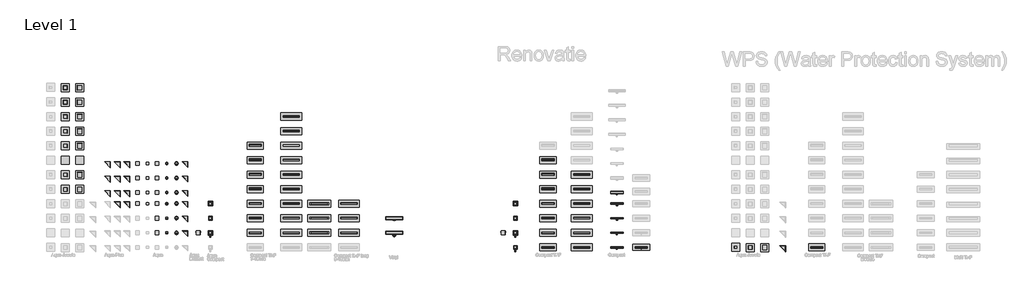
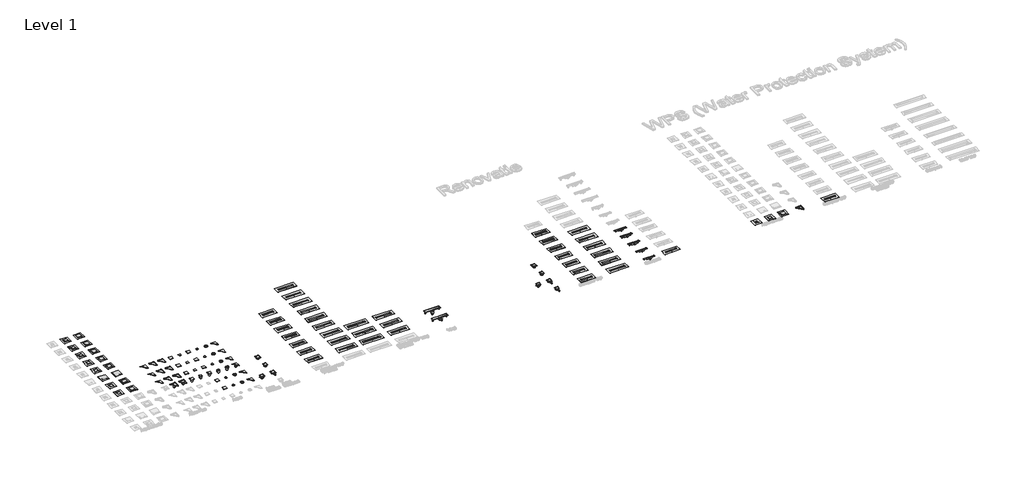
# One storey, part 5 of 23: 125 sanitary terminals, 15 coverings.
"""IFC4 building model written with IfcOpenShell, lengths in millimetres."""

from ifc_helpers import new_model, si_unit, origin, place, context, project, spatial, transform, mapped, element, save
from components import covering_949c216e, covering_52c8488e, sanitary_terminal_1823a797, sanitary_terminal_2f80e022, sanitary_terminal_5b34698b, sanitary_terminal_2ebfcd1c, sanitary_terminal_eb8b4586, sanitary_terminal_f8d560c6, sanitary_terminal_cf954fec, sanitary_terminal_e1eeded3, sanitary_terminal_9a77729b, sanitary_terminal_87b3114c, sanitary_terminal_e6825e24, sanitary_terminal_5c7f7aa6, sanitary_terminal_14ebe62b, sanitary_terminal_cd1ec674, sanitary_terminal_94900406, sanitary_terminal_50c217ad, sanitary_terminal_e52f65bd, sanitary_terminal_b1b542f0, sanitary_terminal_1a364380, sanitary_terminal_49c4bee3, black_glass_15x15_4ec12fde, black_glass_20x20_2d4f7b62, compact_d3044acb, compact_a988ca50, compact_608fc20b, compact_45fd4abb, compact_89d7015a, compact_d6b970c3, compact_b74792c9, compact_6f6b42fc, compact_ff_9ca3e479, compact_flange_e84be961, compact_taf_aa2868d5, compact_taf_09897acd, compact_taf_a320cd3e, compact_taf_2342890d, compact_taf_wall_cdf960c3, compact_taf_wall_d19b2d83, compact_taf_wall_0f2e0b1c, compact_taf_wall_d03a32f8, m2_trap_body_7347115e, tile_15x15_625d1f21, tile_15x15_8973f844, tile_20x20_1db265bf, tile_20x20_2fca3c0a, vinyl_m2_50_b73f0109, vinyl_m2_50_with_m2_vertical_outlet_dc84f167, black_glass_10x10_94a9755f

model = new_model("IFC4")

# Units and contexts
model_context = context("Model", 3, world=origin())
ifc_project = project(units=[si_unit("LENGTHUNIT", "METRE", prefix="MILLI")], contexts=[model_context])

# Site, building, storey
site = spatial("IfcSite", under=ifc_project)
building = spatial("IfcBuilding", under=site)
storey = spatial("IfcBuildingStorey", under=building, Name="Level 1", Elevation=0.0)

# Coverings
placement = place(None, origin())
covering_shape = covering_949c216e(model_context)
element("IfcCovering", 1, ObjectType="Z_DO_NOT_USE_NLRS_PF_52_UN_Extension Set_Easydrain : NLRS_PLF_52_UN_Easy Drain verlengset_Easydrain", at=placement, inside=storey, context=model_context, shape_type="MappedRepresentation", body=[
    mapped(covering_shape, transform((111217.5, 7700.0, 0.0), x_axis=(1.0, 0.0, 0.0), y_axis=(0.0, 1.0, 0.0), z_axis=(0.0, 0.0, 1.0))),
])
element("IfcCovering", 2, ObjectType="Z_DO_NOT_USE_NLRS_PF_52_UN_Extension Set_Easydrain : NLRS_PLF_52_UN_Easy Drain verlengset_Easydrain", at=placement, inside=storey, context=model_context, shape_type="MappedRepresentation", body=[
    mapped(covering_shape, transform((88017.5, 8300.0, 0.0), x_axis=(1.0, 0.0, 0.0), y_axis=(0.0, 1.0, 0.0), z_axis=(0.0, 0.0, 1.0))),
])
element("IfcCovering", 3, ObjectType="Z_DO_NOT_USE_NLRS_PF_52_UN_Extension Set_Easydrain : NLRS_PLF_52_UN_Easy Drain verlengset_Easydrain", at=placement, inside=storey, context=model_context, shape_type="MappedRepresentation", body=[
    mapped(covering_shape, transform((88017.5, 8900.0, 0.0), x_axis=(1.0, 0.0, 0.0), y_axis=(0.0, 1.0, 0.0), z_axis=(0.0, 0.0, 1.0))),
])
element("IfcCovering", 4, ObjectType="Z_DO_NOT_USE_NLRS_PF_52_UN_Extension Set_Easydrain : NLRS_PLF_52_UN_Easy Drain verlengset_Easydrain", at=placement, inside=storey, context=model_context, shape_type="MappedRepresentation", body=[
    mapped(covering_shape, transform((88017.5, 9500.0, 0.0), x_axis=(1.0, 0.0, 0.0), y_axis=(0.0, 1.0, 0.0), z_axis=(0.0, 0.0, 1.0))),
])
element("IfcCovering", 5, ObjectType="Z_DO_NOT_USE_NLRS_PF_52_UN_Extension Set_Easydrain : NLRS_PLF_52_UN_Easy Drain verlengset_Easydrain", at=placement, inside=storey, context=model_context, shape_type="MappedRepresentation", body=[
    mapped(covering_shape, transform((100117.5, 7700.0, 0.0), x_axis=(1.0, 0.0, 0.0), y_axis=(0.0, 1.0, 0.0), z_axis=(0.0, 0.0, 1.0))),
])
element("IfcCovering", 6, ObjectType="Z_DO_NOT_USE_NLRS_PF_52_UN_Extension Set_Easydrain : NLRS_PLF_52_UN_Easy Drain verlengset_Easydrain", at=placement, inside=storey, context=model_context, shape_type="MappedRepresentation", body=[
    mapped(covering_shape, transform((100117.5, 8300.0, 0.0), x_axis=(1.0, 0.0, 0.0), y_axis=(0.0, 1.0, 0.0), z_axis=(0.0, 0.0, 1.0))),
])
element("IfcCovering", 7, ObjectType="Z_DO_NOT_USE_NLRS_PF_52_UN_Extension Set_Easydrain : NLRS_PLF_52_UN_Easy Drain verlengset_Easydrain", at=placement, inside=storey, context=model_context, shape_type="MappedRepresentation", body=[
    mapped(covering_shape, transform((100117.5, 8900.0, 0.0), x_axis=(1.0, 0.0, 0.0), y_axis=(0.0, 1.0, 0.0), z_axis=(0.0, 0.0, 1.0))),
])
element("IfcCovering", 8, ObjectType="Z_DO_NOT_USE_NLRS_PF_52_UN_Extension Set_Easydrain : NLRS_PLF_52_UN_Easy Drain verlengset_Easydrain", at=placement, inside=storey, context=model_context, shape_type="MappedRepresentation", body=[
    mapped(covering_shape, transform((100117.5, 9500.0, 0.0), x_axis=(1.0, 0.0, 0.0), y_axis=(0.0, 1.0, 0.0), z_axis=(0.0, 0.0, 1.0))),
])
covering_2_shape = covering_52c8488e(model_context)
element("IfcCovering", 9, ObjectType="Z_DO_NOT_USE_NLRS_PF_52_UN_Extension Set_Easydrain : NLRS_PLF_52_UN_Easy Drain verlengset_Easydrain", at=placement, inside=storey, context=model_context, shape_type="MappedRepresentation", body=[
    mapped(covering_2_shape, transform((88017.5, 10100.0, 0.0), x_axis=(1.0, 0.0, 0.0), y_axis=(0.0, 1.0, 0.0), z_axis=(0.0, 0.0, 1.0))),
])
element("IfcCovering", 10, ObjectType="Z_DO_NOT_USE_NLRS_PF_52_UN_Extension Set_Easydrain : NLRS_PLF_52_UN_Easy Drain verlengset_Easydrain", at=placement, inside=storey, context=model_context, shape_type="MappedRepresentation", body=[
    mapped(covering_2_shape, transform((88017.5, 10700.0, 0.0), x_axis=(1.0, 0.0, 0.0), y_axis=(0.0, 1.0, 0.0), z_axis=(0.0, 0.0, 1.0))),
])
element("IfcCovering", 11, ObjectType="Z_DO_NOT_USE_NLRS_PF_52_UN_Extension Set_Easydrain : NLRS_PLF_52_UN_Easy Drain verlengset_Easydrain", at=placement, inside=storey, context=model_context, shape_type="MappedRepresentation", body=[
    mapped(covering_2_shape, transform((88017.5, 11300.0, 0.0), x_axis=(1.0, 0.0, 0.0), y_axis=(0.0, 1.0, 0.0), z_axis=(0.0, 0.0, 1.0))),
])
element("IfcCovering", 12, ObjectType="Z_DO_NOT_USE_NLRS_PF_52_UN_Extension Set_Easydrain : NLRS_PLF_52_UN_Easy Drain verlengset_Easydrain", at=placement, inside=storey, context=model_context, shape_type="MappedRepresentation", body=[
    mapped(covering_2_shape, transform((88017.5, 11900.0, 0.0), x_axis=(1.0, 0.0, 0.0), y_axis=(0.0, 1.0, 0.0), z_axis=(0.0, 0.0, 1.0))),
])
element("IfcCovering", 13, ObjectType="Z_DO_NOT_USE_NLRS_PF_52_UN_Extension Set_Easydrain : NLRS_PLF_52_UN_Easy Drain verlengset_Easydrain", at=placement, inside=storey, context=model_context, shape_type="MappedRepresentation", body=[
    mapped(covering_2_shape, transform((100117.5, 10100.0, 0.0), x_axis=(1.0, 0.0, 0.0), y_axis=(0.0, 1.0, 0.0), z_axis=(0.0, 0.0, 1.0))),
])
element("IfcCovering", 14, ObjectType="Z_DO_NOT_USE_NLRS_PF_52_UN_Extension Set_Easydrain : NLRS_PLF_52_UN_Easy Drain verlengset_Easydrain", at=placement, inside=storey, context=model_context, shape_type="MappedRepresentation", body=[
    mapped(covering_2_shape, transform((100117.5, 10700.0, 0.0), x_axis=(1.0, 0.0, 0.0), y_axis=(0.0, 1.0, 0.0), z_axis=(0.0, 0.0, 1.0))),
])
element("IfcCovering", 15, ObjectType="Z_DO_NOT_USE_NLRS_PF_52_UN_Extension Set_Easydrain : NLRS_PLF_52_UN_Easy Drain verlengset_Easydrain", at=placement, inside=storey, context=model_context, shape_type="MappedRepresentation", body=[
    mapped(covering_2_shape, transform((100117.5, 11300.0, 0.0), x_axis=(1.0, 0.0, 0.0), y_axis=(0.0, 1.0, 0.0), z_axis=(0.0, 0.0, 1.0))),
])

# Sanitary terminals
sanitary_terminal_shape = sanitary_terminal_1823a797(model_context)
element("IfcSanitaryTerminal", 16, ObjectType="NLRS_PF_52_UN_Aqua Brilliant_Easydrain : Brilliant onderuitloop 50mm", at=placement, inside=storey, context=model_context, shape_type="MappedRepresentation", body=[
    mapped(sanitary_terminal_shape, transform((85900.0, 8300.0, 0.0), x_axis=(1.0, 0.0, 0.0), y_axis=(0.0, 1.0, 0.0), z_axis=(0.0, 0.0, 1.0))),
])
element("IfcSanitaryTerminal", 17, ObjectType="NLRS_PF_52_UN_Aqua Brilliant_Easydrain : Brilliant onderuitloop 50mm", at=placement, inside=storey, context=model_context, shape_type="MappedRepresentation", body=[
    mapped(sanitary_terminal_shape, transform((98500.0, 8300.0, 0.0), x_axis=(1.0, 0.0, 0.0), y_axis=(0.0, 1.0, 0.0), z_axis=(0.0, 0.0, 1.0))),
])
sanitary_terminal_2_shape = sanitary_terminal_2f80e022(model_context)
element("IfcSanitaryTerminal", 18, ObjectType="NLRS_PF_52_UN_Aqua Delta_in_uitloop_Easydrain : Aqua Delta onderuitloop 50mm, zij-ingang 40mm", at=placement, inside=storey, context=model_context, shape_type="MappedRepresentation", body=[
    mapped(sanitary_terminal_2_shape, transform((85400.0, 10560.0, 0.0), x_axis=(1.0, 0.0, 0.0), y_axis=(0.0, 1.0, 0.0), z_axis=(0.0, 0.0, 1.0))),
])
element("IfcSanitaryTerminal", 19, ObjectType="NLRS_PF_52_UN_Aqua Delta_in_uitloop_Easydrain : Aqua Delta onderuitloop 50mm, zij-ingang 50mm", at=placement, inside=storey, context=model_context, shape_type="MappedRepresentation", body=[
    mapped(sanitary_terminal_2_shape, transform((85400.0, 11160.0, 0.0), x_axis=(1.0, 0.0, 0.0), y_axis=(0.0, 1.0, 0.0), z_axis=(0.0, 0.0, 1.0))),
])
element("IfcSanitaryTerminal", 20, ObjectType="NLRS_PF_52_UN_Aqua Delta_in_uitloop_Easydrain : Aqua Delta zijuitloop hoog 50mm, zij-ingang 40mm", at=placement, inside=storey, context=model_context, shape_type="MappedRepresentation", body=[
    mapped(sanitary_terminal_2_shape, transform((85400.0, 9960.0, 0.0), x_axis=(1.0, 0.0, 0.0), y_axis=(0.0, 1.0, 0.0), z_axis=(0.0, 0.0, 1.0))),
])
sanitary_terminal_3_shape = sanitary_terminal_5b34698b(model_context)
element("IfcSanitaryTerminal", 21, ObjectType="NLRS_PF_52_UN_Aqua Jewels Delta_uitloop_Easydrain : Aqua Jewels Delta horizontal outlet low 40mm", at=placement, inside=storey, context=model_context, shape_type="MappedRepresentation", body=[
    mapped(sanitary_terminal_3_shape, transform((110100.0, 7700.0, 0.0), x_axis=(1.0, 0.0, 0.0), y_axis=(0.0, 1.0, 0.0), z_axis=(0.0, 0.0, 1.0))),
])
sanitary_terminal_4_shape = sanitary_terminal_2ebfcd1c(model_context)
element("IfcSanitaryTerminal", 22, ObjectType="NLRS_PF_52_UN_Aqua Plus Delta_in_uitloop_Easydrain : Aqua Plus Delta onderuitloop 50mm, zij-ingang 40mm", at=placement, inside=storey, context=model_context, shape_type="MappedRepresentation", body=[
    mapped(sanitary_terminal_4_shape, transform((82200.0, 10560.0, 0.0), x_axis=(1.0, 0.0, 0.0), y_axis=(0.0, 1.0, 0.0), z_axis=(0.0, 0.0, 1.0))),
])
element("IfcSanitaryTerminal", 23, ObjectType="NLRS_PF_52_UN_Aqua Plus Delta_in_uitloop_Easydrain : Aqua Plus Delta onderuitloop 50mm, zij-ingang 50mm", at=placement, inside=storey, context=model_context, shape_type="MappedRepresentation", body=[
    mapped(sanitary_terminal_4_shape, transform((82200.0, 11160.0, 0.0), x_axis=(1.0, 0.0, 0.0), y_axis=(0.0, 1.0, 0.0), z_axis=(0.0, 0.0, 1.0))),
])
element("IfcSanitaryTerminal", 24, ObjectType="NLRS_PF_52_UN_Aqua Plus Delta_in_uitloop_Easydrain : Aqua Plus Delta zijuitloop hoog 50mm, zij-ingang 40mm", at=placement, inside=storey, context=model_context, shape_type="MappedRepresentation", body=[
    mapped(sanitary_terminal_4_shape, transform((82200.0, 9960.0, 0.0), x_axis=(1.0, 0.0, 0.0), y_axis=(0.0, 1.0, 0.0), z_axis=(0.0, 0.0, 1.0))),
])
sanitary_terminal_5_shape = sanitary_terminal_eb8b4586(model_context)
element("IfcSanitaryTerminal", 25, ObjectType="NLRS_PF_52_UN_Aqua Plus Quattro_in_uitloop_Easydrain : Aqua Plus Quattro zijuitloop hoog 50mm, zij-ingang 40mm", at=placement, inside=storey, context=model_context, shape_type="MappedRepresentation", body=[
    mapped(sanitary_terminal_5_shape, transform((83400.0, 9960.0, 0.0), x_axis=(1.0, 0.0, 0.0), y_axis=(0.0, 1.0, 0.0), z_axis=(0.0, 0.0, 1.0))),
])
element("IfcSanitaryTerminal", 26, ObjectType="NLRS_PF_52_UN_Aqua Plus Quattro_in_uitloop_Easydrain : Aqua Plus Quattro onderuitloop 50mm, zij-ingang 40mm", at=placement, inside=storey, context=model_context, shape_type="MappedRepresentation", body=[
    mapped(sanitary_terminal_5_shape, transform((83400.0, 10560.0, 0.0), x_axis=(1.0, 0.0, 0.0), y_axis=(0.0, 1.0, 0.0), z_axis=(0.0, 0.0, 1.0))),
])
element("IfcSanitaryTerminal", 27, ObjectType="NLRS_PF_52_UN_Aqua Plus Quattro_in_uitloop_Easydrain : Aqua Plus Quattro onderuitloop 50mm, zij-ingang 50mm", at=placement, inside=storey, context=model_context, shape_type="MappedRepresentation", body=[
    mapped(sanitary_terminal_5_shape, transform((83400.0, 11160.0, 0.0), x_axis=(1.0, 0.0, 0.0), y_axis=(0.0, 1.0, 0.0), z_axis=(0.0, 0.0, 1.0))),
])
sanitary_terminal_6_shape = sanitary_terminal_f8d560c6(model_context)
element("IfcSanitaryTerminal", 28, ObjectType="NLRS_PF_52_UN_Aqua Quattro_in_uitloop_Easydrain : Aqua Quattro onderuitloop 50mm, zij-ingang 40mm", at=placement, inside=storey, context=model_context, shape_type="MappedRepresentation", body=[
    mapped(sanitary_terminal_6_shape, transform((83800.0, 10560.0, 0.0), x_axis=(1.0, 0.0, 0.0), y_axis=(0.0, 1.0, 0.0), z_axis=(0.0, 0.0, 1.0))),
])
element("IfcSanitaryTerminal", 29, ObjectType="NLRS_PF_52_UN_Aqua Quattro_in_uitloop_Easydrain : Aqua Quattro zijuitloop hoog 50mm, zij-ingang 40mm", at=placement, inside=storey, context=model_context, shape_type="MappedRepresentation", body=[
    mapped(sanitary_terminal_6_shape, transform((83800.0, 9960.0, 0.0), x_axis=(1.0, 0.0, 0.0), y_axis=(0.0, 1.0, 0.0), z_axis=(0.0, 0.0, 1.0))),
])
element("IfcSanitaryTerminal", 30, ObjectType="NLRS_PF_52_UN_Aqua Quattro_in_uitloop_Easydrain : Aqua Quattro zijuitloop hoog 50mm, zij-ingang 40mm", at=placement, inside=storey, context=model_context, shape_type="MappedRepresentation", body=[
    mapped(sanitary_terminal_6_shape, transform((83800.0, 11160.0, 0.0), x_axis=(1.0, 0.0, 0.0), y_axis=(0.0, 1.0, 0.0), z_axis=(0.0, 0.0, 1.0))),
])
sanitary_terminal_7_shape = sanitary_terminal_cf954fec(model_context)
element("IfcSanitaryTerminal", 31, ObjectType="NLRS_PF_52_UN_Aqua Round_in_uitloop_Easydrain : Aqua Round onderuitloop 50mm, zij-ingang 40mm", at=placement, inside=storey, context=model_context, shape_type="MappedRepresentation", body=[
    mapped(sanitary_terminal_7_shape, transform((84600.0, 10560.0, 0.0), x_axis=(1.0, 0.0, 0.0), y_axis=(0.0, 1.0, 0.0), z_axis=(0.0, 0.0, 1.0))),
])
element("IfcSanitaryTerminal", 32, ObjectType="NLRS_PF_52_UN_Aqua Round_in_uitloop_Easydrain : Aqua Round onderuitloop 50mm, zij-ingang 50mm", at=placement, inside=storey, context=model_context, shape_type="MappedRepresentation", body=[
    mapped(sanitary_terminal_7_shape, transform((84600.0, 11160.0, 0.0), x_axis=(1.0, 0.0, 0.0), y_axis=(0.0, 1.0, 0.0), z_axis=(0.0, 0.0, 1.0))),
])
element("IfcSanitaryTerminal", 33, ObjectType="NLRS_PF_52_UN_Aqua Round_in_uitloop_Easydrain : Aqua Round zijuitloop hoog 50mm, zij-ingang 40mm", at=placement, inside=storey, context=model_context, shape_type="MappedRepresentation", body=[
    mapped(sanitary_terminal_7_shape, transform((84600.0, 9960.0, 0.0), x_axis=(1.0, 0.0, 0.0), y_axis=(0.0, 1.0, 0.0), z_axis=(0.0, 0.0, 1.0))),
])
sanitary_terminal_8_shape = sanitary_terminal_e1eeded3(model_context)
element("IfcSanitaryTerminal", 34, ObjectType="NLRS_PF_52_UN_Compact TAF Low_Easydrain : Compact TAF Low Zero geborsteld RVS", at=placement, inside=storey, context=model_context, shape_type="MappedRepresentation", body=[
    mapped(sanitary_terminal_8_shape, transform((92030.0, 8900.0, 0.0), x_axis=(1.0, 0.0, 0.0), y_axis=(0.0, 1.0, 0.0), z_axis=(0.0, 0.0, 1.0))),
])
sanitary_terminal_9_shape = sanitary_terminal_9a77729b(model_context)
element("IfcSanitaryTerminal", 35, ObjectType="NLRS_PF_52_UN_Compact TAF Modulo Design_Easydrain : Compact TAF Modulo Design Z4", at=placement, inside=storey, context=model_context, shape_type="MappedRepresentation", body=[
    mapped(sanitary_terminal_9_shape, transform((90750.0, 8300.0, 0.0), x_axis=(1.0, 0.0, 0.0), y_axis=(0.0, 1.0, 0.0), z_axis=(0.0, 0.0, 1.0))),
])
sanitary_terminal_10_shape = sanitary_terminal_87b3114c(model_context)
element("IfcSanitaryTerminal", 36, ObjectType="NLRS_PF_52_UN_Compact TAF Modulo_Easydrain : Compact TAF Modulo Classic", at=placement, inside=storey, context=model_context, shape_type="MappedRepresentation", body=[
    mapped(sanitary_terminal_10_shape, transform((101650.0, 7700.0, 0.0), x_axis=(1.0, 0.0, 0.0), y_axis=(0.0, 1.0, 0.0), z_axis=(0.0, 0.0, 1.0))),
])
element("IfcSanitaryTerminal", 37, ObjectType="NLRS_PF_52_UN_Compact TAF Modulo_Easydrain : Compact TAF Modulo Zero+ geborsteld RVS", at=placement, inside=storey, context=model_context, shape_type="MappedRepresentation", body=[
    mapped(sanitary_terminal_10_shape, transform((89650.0, 9500.0, 0.0), x_axis=(1.0, 0.0, 0.0), y_axis=(0.0, 1.0, 0.0), z_axis=(0.0, 0.0, 1.0))),
])
element("IfcSanitaryTerminal", 38, ObjectType="NLRS_PF_52_UN_Compact TAF Modulo_Easydrain : Compact TAF Modulo Zero+ geborsteld RVS", at=placement, inside=storey, context=model_context, shape_type="MappedRepresentation", body=[
    mapped(sanitary_terminal_10_shape, transform((101650.0, 9500.0, 0.0), x_axis=(1.0, 0.0, 0.0), y_axis=(0.0, 1.0, 0.0), z_axis=(0.0, 0.0, 1.0))),
])
element("IfcSanitaryTerminal", 39, ObjectType="NLRS_PF_52_UN_Compact TAF Modulo_Easydrain : Compact TAF Modulo Zero+ verchroomd RVS", at=placement, inside=storey, context=model_context, shape_type="MappedRepresentation", body=[
    mapped(sanitary_terminal_10_shape, transform((89650.0, 10100.0, 0.0), x_axis=(1.0, 0.0, 0.0), y_axis=(0.0, 1.0, 0.0), z_axis=(0.0, 0.0, 1.0))),
])
element("IfcSanitaryTerminal", 40, ObjectType="NLRS_PF_52_UN_Compact TAF Modulo_Easydrain : Compact TAF Modulo Zero+ verchroomd RVS", at=placement, inside=storey, context=model_context, shape_type="MappedRepresentation", body=[
    mapped(sanitary_terminal_10_shape, transform((101650.0, 10100.0, 0.0), x_axis=(1.0, 0.0, 0.0), y_axis=(0.0, 1.0, 0.0), z_axis=(0.0, 0.0, 1.0))),
])
sanitary_terminal_11_shape = sanitary_terminal_e6825e24(model_context)
element("IfcSanitaryTerminal", 41, ObjectType="NLRS_PF_52_UN_Compact TAF Modulo_Easydrain : Compact TAF Modulo Glas zwart glans", at=placement, inside=storey, context=model_context, shape_type="MappedRepresentation", body=[
    mapped(sanitary_terminal_11_shape, transform((89650.0, 8900.0, 0.0), x_axis=(1.0, 0.0, 0.0), y_axis=(0.0, 1.0, 0.0), z_axis=(0.0, 0.0, 1.0))),
])
element("IfcSanitaryTerminal", 42, ObjectType="NLRS_PF_52_UN_Compact TAF Modulo_Easydrain : Compact TAF Modulo Glas zwart glans", at=placement, inside=storey, context=model_context, shape_type="MappedRepresentation", body=[
    mapped(sanitary_terminal_11_shape, transform((101650.0, 8900.0, 0.0), x_axis=(1.0, 0.0, 0.0), y_axis=(0.0, 1.0, 0.0), z_axis=(0.0, 0.0, 1.0))),
])
element("IfcSanitaryTerminal", 43, ObjectType="NLRS_PF_52_UN_Compact TAF Modulo_Easydrain : Compact TAF Modulo Glas wit glans", at=placement, inside=storey, context=model_context, shape_type="MappedRepresentation", body=[
    mapped(sanitary_terminal_11_shape, transform((89650.0, 8300.0, 0.0), x_axis=(1.0, 0.0, 0.0), y_axis=(0.0, 1.0, 0.0), z_axis=(0.0, 0.0, 1.0))),
])
element("IfcSanitaryTerminal", 44, ObjectType="NLRS_PF_52_UN_Compact TAF Modulo_Easydrain : Compact TAF Modulo Glas wit glans", at=placement, inside=storey, context=model_context, shape_type="MappedRepresentation", body=[
    mapped(sanitary_terminal_11_shape, transform((101650.0, 8300.0, 0.0), x_axis=(1.0, 0.0, 0.0), y_axis=(0.0, 1.0, 0.0), z_axis=(0.0, 0.0, 1.0))),
])
sanitary_terminal_12_shape = sanitary_terminal_5c7f7aa6(model_context)
element("IfcSanitaryTerminal", 45, ObjectType="NLRS_PF_52_UN_Aqua Plus Delta_in_uitloop_Easydrain : Aqua Plus Delta zijuitloop hoog 50mm, zij-ingang 40mm", at=placement, inside=storey, context=model_context, shape_type="MappedRepresentation", body=[
    mapped(sanitary_terminal_12_shape, transform((82600.0, 9960.0, 0.0), x_axis=(1.0, 0.0, 0.0), y_axis=(0.0, 1.0, 0.0), z_axis=(0.0, 0.0, 1.0))),
])
element("IfcSanitaryTerminal", 46, ObjectType="NLRS_PF_52_UN_Aqua Plus Delta_in_uitloop_Easydrain : Aqua Plus Delta onderuitloop 50mm, zij-ingang 40mm", at=placement, inside=storey, context=model_context, shape_type="MappedRepresentation", body=[
    mapped(sanitary_terminal_12_shape, transform((82600.0, 10560.0, 0.0), x_axis=(1.0, 0.0, 0.0), y_axis=(0.0, 1.0, 0.0), z_axis=(0.0, 0.0, 1.0))),
])
element("IfcSanitaryTerminal", 47, ObjectType="NLRS_PF_52_UN_Aqua Plus Delta_in_uitloop_Easydrain : Aqua Plus Delta onderuitloop 50mm, zij-ingang 50mm", at=placement, inside=storey, context=model_context, shape_type="MappedRepresentation", body=[
    mapped(sanitary_terminal_12_shape, transform((82600.0, 11160.0, 0.0), x_axis=(1.0, 0.0, 0.0), y_axis=(0.0, 1.0, 0.0), z_axis=(0.0, 0.0, 1.0))),
])
element("IfcSanitaryTerminal", 48, ObjectType="NLRS_PF_52_UN_Aqua Plus Delta_in_uitloop_Easydrain : Aqua Plus Delta zijuitloop hoog 50mm, zij-ingang 40mm", at=placement, inside=storey, context=model_context, shape_type="MappedRepresentation", body=[
    mapped(sanitary_terminal_12_shape, transform((83000.0, 9960.0, 0.0), x_axis=(1.0, 0.0, 0.0), y_axis=(0.0, 1.0, 0.0), z_axis=(0.0, 0.0, 1.0))),
])
element("IfcSanitaryTerminal", 49, ObjectType="NLRS_PF_52_UN_Aqua Plus Delta_in_uitloop_Easydrain : Aqua Plus Delta onderuitloop 50mm, zij-ingang 40mm", at=placement, inside=storey, context=model_context, shape_type="MappedRepresentation", body=[
    mapped(sanitary_terminal_12_shape, transform((83000.0, 10560.0, 0.0), x_axis=(1.0, 0.0, 0.0), y_axis=(0.0, 1.0, 0.0), z_axis=(0.0, 0.0, 1.0))),
])
element("IfcSanitaryTerminal", 50, ObjectType="NLRS_PF_52_UN_Aqua Plus Delta_in_uitloop_Easydrain : Aqua Plus Delta onderuitloop 50mm, zij-ingang 50mm", at=placement, inside=storey, context=model_context, shape_type="MappedRepresentation", body=[
    mapped(sanitary_terminal_12_shape, transform((83000.0, 11160.0, 0.0), x_axis=(1.0, 0.0, 0.0), y_axis=(0.0, 1.0, 0.0), z_axis=(0.0, 0.0, 1.0))),
])
sanitary_terminal_13_shape = sanitary_terminal_14ebe62b(model_context)
element("IfcSanitaryTerminal", 51, ObjectType="NLRS_PF_52_UN_Aqua Quattro_in_uitloop_Easydrain : Aqua Quattro zijuitloop hoog 50mm, zij-ingang 40mm", at=placement, inside=storey, context=model_context, shape_type="MappedRepresentation", body=[
    mapped(sanitary_terminal_13_shape, transform((84200.0, 9960.0, 0.0), x_axis=(1.0, 0.0, 0.0), y_axis=(0.0, 1.0, 0.0), z_axis=(0.0, 0.0, 1.0))),
])
element("IfcSanitaryTerminal", 52, ObjectType="NLRS_PF_52_UN_Aqua Quattro_in_uitloop_Easydrain : Aqua Quattro zijuitloop hoog 50mm, zij-ingang 40mm", at=placement, inside=storey, context=model_context, shape_type="MappedRepresentation", body=[
    mapped(sanitary_terminal_13_shape, transform((84200.0, 11160.0, 0.0), x_axis=(1.0, 0.0, 0.0), y_axis=(0.0, 1.0, 0.0), z_axis=(0.0, 0.0, 1.0))),
])
element("IfcSanitaryTerminal", 53, ObjectType="NLRS_PF_52_UN_Aqua Quattro_in_uitloop_Easydrain : Aqua Quattro onderuitloop 50mm, zij-ingang 40mm", at=placement, inside=storey, context=model_context, shape_type="MappedRepresentation", body=[
    mapped(sanitary_terminal_13_shape, transform((84200.0, 10560.0, 0.0), x_axis=(1.0, 0.0, 0.0), y_axis=(0.0, 1.0, 0.0), z_axis=(0.0, 0.0, 1.0))),
])
sanitary_terminal_14_shape = sanitary_terminal_cd1ec674(model_context)
element("IfcSanitaryTerminal", 54, ObjectType="NLRS_PF_52_UN_Aqua Round_in_uitloop_Easydrain : Aqua Round zijuitloop hoog 50mm, zij-ingang 40mm", at=placement, inside=storey, context=model_context, shape_type="MappedRepresentation", body=[
    mapped(sanitary_terminal_14_shape, transform((85000.0, 9960.0, 0.0), x_axis=(1.0, 0.0, 0.0), y_axis=(0.0, 1.0, 0.0), z_axis=(0.0, 0.0, 1.0))),
])
element("IfcSanitaryTerminal", 55, ObjectType="NLRS_PF_52_UN_Aqua Round_in_uitloop_Easydrain : Aqua Round onderuitloop 50mm, zij-ingang 50mm", at=placement, inside=storey, context=model_context, shape_type="MappedRepresentation", body=[
    mapped(sanitary_terminal_14_shape, transform((85000.0, 11160.0, 0.0), x_axis=(1.0, 0.0, 0.0), y_axis=(0.0, 1.0, 0.0), z_axis=(0.0, 0.0, 1.0))),
])
element("IfcSanitaryTerminal", 56, ObjectType="NLRS_PF_52_UN_Aqua Round_in_uitloop_Easydrain : Aqua Round onderuitloop 50mm, zij-ingang 40mm", at=placement, inside=storey, context=model_context, shape_type="MappedRepresentation", body=[
    mapped(sanitary_terminal_14_shape, transform((85000.0, 10560.0, 0.0), x_axis=(1.0, 0.0, 0.0), y_axis=(0.0, 1.0, 0.0), z_axis=(0.0, 0.0, 1.0))),
])
sanitary_terminal_15_shape = sanitary_terminal_94900406(model_context)
element("IfcSanitaryTerminal", 57, ObjectType="NLRS_PF_52_UN_Compact TAF Low_Easydrain : Compact TAF Low Inleg", at=placement, inside=storey, context=model_context, shape_type="MappedRepresentation", body=[
    mapped(sanitary_terminal_15_shape, transform((92030.0, 8300.0, 0.0), x_axis=(1.0, 0.0, 0.0), y_axis=(0.0, 1.0, 0.0), z_axis=(0.0, 0.0, 1.0))),
])
element("IfcSanitaryTerminal", 58, ObjectType="NLRS_PF_52_UN_Compact TAF Low_Easydrain : Compact TAF Low Zero geborsteld RVS", at=placement, inside=storey, context=model_context, shape_type="MappedRepresentation", body=[
    mapped(sanitary_terminal_15_shape, transform((92030.0, 9500.0, 0.0), x_axis=(1.0, 0.0, 0.0), y_axis=(0.0, 1.0, 0.0), z_axis=(0.0, 0.0, 1.0))),
])
sanitary_terminal_16_shape = sanitary_terminal_50c217ad(model_context)
element("IfcSanitaryTerminal", 59, ObjectType="NLRS_PF_52_UN_Compact TAF Modulo Design_Easydrain : Compact TAF Modulo Design Z2", at=placement, inside=storey, context=model_context, shape_type="MappedRepresentation", body=[
    mapped(sanitary_terminal_16_shape, transform((90750.0, 8900.0, 0.0), x_axis=(1.0, 0.0, 0.0), y_axis=(0.0, 1.0, 0.0), z_axis=(0.0, 0.0, 1.0))),
])
sanitary_terminal_17_shape = sanitary_terminal_e52f65bd(model_context)
element("IfcSanitaryTerminal", 60, ObjectType="NLRS_PF_52_UN_Compact TAF Modulo Design_Easydrain : Compact TAF Modulo Design Z4", at=placement, inside=storey, context=model_context, shape_type="MappedRepresentation", body=[
    mapped(sanitary_terminal_17_shape, transform((90750.0, 9500.0, 0.0), x_axis=(1.0, 0.0, 0.0), y_axis=(0.0, 1.0, 0.0), z_axis=(0.0, 0.0, 1.0))),
])
sanitary_terminal_18_shape = sanitary_terminal_b1b542f0(model_context)
element("IfcSanitaryTerminal", 61, ObjectType="NLRS_PF_52_UN_Compact TAF Modulo_Easydrain : Compact TAF Modulo Classic", at=placement, inside=storey, context=model_context, shape_type="MappedRepresentation", body=[
    mapped(sanitary_terminal_18_shape, transform((89650.0, 10700.0, 0.0), x_axis=(1.0, 0.0, 0.0), y_axis=(0.0, 1.0, 0.0), z_axis=(0.0, 0.0, 1.0))),
])
element("IfcSanitaryTerminal", 62, ObjectType="NLRS_PF_52_UN_Compact TAF Modulo_Easydrain : Compact TAF Modulo Classic", at=placement, inside=storey, context=model_context, shape_type="MappedRepresentation", body=[
    mapped(sanitary_terminal_18_shape, transform((101650.0, 10700.0, 0.0), x_axis=(1.0, 0.0, 0.0), y_axis=(0.0, 1.0, 0.0), z_axis=(0.0, 0.0, 1.0))),
])
sanitary_terminal_19_shape = sanitary_terminal_1a364380(model_context)
element("IfcSanitaryTerminal", 63, ObjectType="NLRS_PF_52_UN_Compact TAF Modulo_Easydrain : Compact TAF Modulo Glas wit glans", at=placement, inside=storey, context=model_context, shape_type="MappedRepresentation", body=[
    mapped(sanitary_terminal_19_shape, transform((89650.0, 11300.0, 0.0), x_axis=(1.0, 0.0, 0.0), y_axis=(0.0, 1.0, 0.0), z_axis=(0.0, 0.0, 1.0))),
])
element("IfcSanitaryTerminal", 64, ObjectType="NLRS_PF_52_UN_Compact TAF Modulo_Easydrain : Compact TAF Modulo Glas zwart glans", at=placement, inside=storey, context=model_context, shape_type="MappedRepresentation", body=[
    mapped(sanitary_terminal_19_shape, transform((89650.0, 11900.0, 0.0), x_axis=(1.0, 0.0, 0.0), y_axis=(0.0, 1.0, 0.0), z_axis=(0.0, 0.0, 1.0))),
])
element("IfcSanitaryTerminal", 65, ObjectType="NLRS_PF_52_UN_Compact TAF Modulo_Easydrain : Compact TAF Modulo Zero+ geborsteld RVS", at=placement, inside=storey, context=model_context, shape_type="MappedRepresentation", body=[
    mapped(sanitary_terminal_18_shape, transform((89650.0, 12500.0, 0.0), x_axis=(1.0, 0.0, 0.0), y_axis=(0.0, 1.0, 0.0), z_axis=(0.0, 0.0, 1.0))),
])
element("IfcSanitaryTerminal", 66, ObjectType="NLRS_PF_52_UN_Compact TAF Modulo_Easydrain : Compact TAF Modulo Zero+ verchroomd RVS", at=placement, inside=storey, context=model_context, shape_type="MappedRepresentation", body=[
    mapped(sanitary_terminal_18_shape, transform((89650.0, 13100.0, 0.0), x_axis=(1.0, 0.0, 0.0), y_axis=(0.0, 1.0, 0.0), z_axis=(0.0, 0.0, 1.0))),
])
sanitary_terminal_20_shape = sanitary_terminal_49c4bee3(model_context)
element("IfcSanitaryTerminal", 67, ObjectType="Z_DO_NOT_USE_NLRS_PF_52_UN_Multi sifon uitloop_Easydrain : onderuitloop 50mm", at=placement, inside=storey, context=model_context, shape_type="MappedRepresentation", body=[
    mapped(sanitary_terminal_20_shape, transform((82600.0, 9500.0, -20.0), x_axis=(1.0, 0.0, 0.0), y_axis=(0.0, 1.0, 0.0), z_axis=(0.0, 0.0, 1.0))),
])
element("IfcSanitaryTerminal", 68, ObjectType="Z_DO_NOT_USE_NLRS_PF_52_UN_Multi sifon uitloop_Easydrain : onderuitloop 50mm", at=placement, inside=storey, context=model_context, shape_type="MappedRepresentation", body=[
    mapped(sanitary_terminal_20_shape, transform((83000.0, 9500.0, -20.0), x_axis=(1.0, 0.0, 0.0), y_axis=(0.0, 1.0, 0.0), z_axis=(0.0, 0.0, 1.0))),
])
element("IfcSanitaryTerminal", 69, ObjectType="Z_DO_NOT_USE_NLRS_PF_52_UN_Multi sifon uitloop_Easydrain : onderuitloop 50mm", at=placement, inside=storey, context=model_context, shape_type="MappedRepresentation", body=[
    mapped(sanitary_terminal_20_shape, transform((85400.0, 9500.0, -14.0), x_axis=(1.0, 0.0, 0.0), y_axis=(0.0, 1.0, 0.0), z_axis=(0.0, 0.0, 1.0))),
])
element("IfcSanitaryTerminal", 70, ObjectType="Z_DO_NOT_USE_NLRS_PF_52_UN_Multi sifon uitloop_Easydrain : onderuitloop 50mm", at=placement, inside=storey, context=model_context, shape_type="MappedRepresentation", body=[
    mapped(sanitary_terminal_20_shape, transform((83400.0, 9500.0, -20.5), x_axis=(1.0, 0.0, 0.0), y_axis=(0.0, 1.0, 0.0), z_axis=(0.0, 0.0, 1.0))),
])
element("IfcSanitaryTerminal", 71, ObjectType="Z_DO_NOT_USE_NLRS_PF_52_UN_Multi sifon uitloop_Easydrain : onderuitloop 50mm", at=placement, inside=storey, context=model_context, shape_type="MappedRepresentation", body=[
    mapped(sanitary_terminal_20_shape, transform((83800.0, 9500.0, -11.0), x_axis=(1.0, 0.0, 0.0), y_axis=(0.0, 1.0, 0.0), z_axis=(0.0, 0.0, 1.0))),
])
element("IfcSanitaryTerminal", 72, ObjectType="Z_DO_NOT_USE_NLRS_PF_52_UN_Multi sifon uitloop_Easydrain : onderuitloop 50mm", at=placement, inside=storey, context=model_context, shape_type="MappedRepresentation", body=[
    mapped(sanitary_terminal_20_shape, transform((84200.0, 9500.0, -11.0), x_axis=(1.0, 0.0, 0.0), y_axis=(0.0, 1.0, 0.0), z_axis=(0.0, 0.0, 1.0))),
])
element("IfcSanitaryTerminal", 73, ObjectType="Z_DO_NOT_USE_NLRS_PF_52_UN_Multi sifon uitloop_Easydrain : onderuitloop 50mm", at=placement, inside=storey, context=model_context, shape_type="MappedRepresentation", body=[
    mapped(sanitary_terminal_20_shape, transform((84600.0, 9500.0, -11.0), x_axis=(1.0, 0.0, 0.0), y_axis=(0.0, 1.0, 0.0), z_axis=(0.0, 0.0, 1.0))),
])
element("IfcSanitaryTerminal", 74, ObjectType="Z_DO_NOT_USE_NLRS_PF_52_UN_Multi sifon uitloop_Easydrain : onderuitloop 50mm", at=placement, inside=storey, context=model_context, shape_type="MappedRepresentation", body=[
    mapped(sanitary_terminal_20_shape, transform((85000.0, 9500.0, -18.0), x_axis=(1.0, 0.0, 0.0), y_axis=(0.0, 1.0, 0.0), z_axis=(0.0, 0.0, 1.0))),
])
element("IfcSanitaryTerminal", 75, ObjectType="NLRS_PF_52_UN_Aqua Delta_uitloop_Easydrain : Aqua Delta horizontal outlet high 50mm", at=placement, inside=storey, context=model_context, shape_type="MappedRepresentation", body=[
    mapped(sanitary_terminal_2_shape, transform((85400.0, 8900.0, 0.0), x_axis=(1.0, 0.0, 0.0), y_axis=(0.0, 1.0, 0.0), z_axis=(0.0, 0.0, 1.0))),
])
element("IfcSanitaryTerminal", 76, ObjectType="NLRS_PF_52_UN_Aqua Delta_uitloop_Easydrain : Aqua Delta horizontal outlet low 50mm", at=placement, inside=storey, context=model_context, shape_type="MappedRepresentation", body=[
    mapped(sanitary_terminal_2_shape, transform((85400.0, 8300.0, 0.0), x_axis=(1.0, 0.0, 0.0), y_axis=(0.0, 1.0, 0.0), z_axis=(0.0, 0.0, 1.0))),
])
element("IfcSanitaryTerminal", 77, ObjectType="NLRS_PF_52_UN_Aqua Delta_uitloop_Easydrain : Aqua Delta vertical outlet 50mm", at=placement, inside=storey, context=model_context, shape_type="MappedRepresentation", body=[
    mapped(sanitary_terminal_2_shape, transform((85400.0, 9500.0, 0.0), x_axis=(1.0, 0.0, 0.0), y_axis=(0.0, 1.0, 0.0), z_axis=(0.0, 0.0, 1.0))),
])
element("IfcSanitaryTerminal", 78, ObjectType="NLRS_PF_52_UN_Aqua Plus Delta_uitloop_Easydrain : Aqua Plus Delta vertical outlet 50mm", at=placement, inside=storey, context=model_context, shape_type="MappedRepresentation", body=[
    mapped(sanitary_terminal_12_shape, transform((82600.0, 9500.0, 0.0), x_axis=(1.0, 0.0, 0.0), y_axis=(0.0, 1.0, 0.0), z_axis=(0.0, 0.0, 1.0))),
])
element("IfcSanitaryTerminal", 79, ObjectType="NLRS_PF_52_UN_Aqua Plus Delta_uitloop_Easydrain : Aqua Plus Delta vertical outlet 50mm", at=placement, inside=storey, context=model_context, shape_type="MappedRepresentation", body=[
    mapped(sanitary_terminal_12_shape, transform((83000.0, 9500.0, 0.0), x_axis=(1.0, 0.0, 0.0), y_axis=(0.0, 1.0, 0.0), z_axis=(0.0, 0.0, 1.0))),
])
element("IfcSanitaryTerminal", 80, ObjectType="NLRS_PF_52_UN_Aqua Plus Quattro_uitloop_Easydrain : Aqua Plus Quattro Vertical Outlet 50mm", at=placement, inside=storey, context=model_context, shape_type="MappedRepresentation", body=[
    mapped(sanitary_terminal_5_shape, transform((83400.0, 9500.0, 0.0), x_axis=(1.0, 0.0, 0.0), y_axis=(0.0, 1.0, 0.0), z_axis=(0.0, 0.0, 1.0))),
])
element("IfcSanitaryTerminal", 81, ObjectType="NLRS_PF_52_UN_Aqua Quattro_uitloop_Easydrain : Aqua Quattro Horizontal outlet Low 50mm", at=placement, inside=storey, context=model_context, shape_type="MappedRepresentation", body=[
    mapped(sanitary_terminal_13_shape, transform((84200.0, 8300.0, 0.0), x_axis=(1.0, 0.0, 0.0), y_axis=(0.0, 1.0, 0.0), z_axis=(0.0, 0.0, 1.0))),
])
element("IfcSanitaryTerminal", 82, ObjectType="NLRS_PF_52_UN_Aqua Quattro_uitloop_Easydrain : Aqua Quattro Horizontal outlet high 50mm", at=placement, inside=storey, context=model_context, shape_type="MappedRepresentation", body=[
    mapped(sanitary_terminal_13_shape, transform((84200.0, 8900.0, 0.0), x_axis=(1.0, 0.0, 0.0), y_axis=(0.0, 1.0, 0.0), z_axis=(0.0, 0.0, 1.0))),
])
element("IfcSanitaryTerminal", 83, ObjectType="NLRS_PF_52_UN_Aqua Quattro_uitloop_Easydrain : Aqua Quattro Vertical Outlet 50mm", at=placement, inside=storey, context=model_context, shape_type="MappedRepresentation", body=[
    mapped(sanitary_terminal_6_shape, transform((83800.0, 9500.0, 0.0), x_axis=(1.0, 0.0, 0.0), y_axis=(0.0, 1.0, 0.0), z_axis=(0.0, 0.0, 1.0))),
])
element("IfcSanitaryTerminal", 84, ObjectType="NLRS_PF_52_UN_Aqua Quattro_uitloop_Easydrain : Aqua Quattro Vertical Outlet 50mm", at=placement, inside=storey, context=model_context, shape_type="MappedRepresentation", body=[
    mapped(sanitary_terminal_13_shape, transform((84200.0, 9500.0, 0.0), x_axis=(1.0, 0.0, 0.0), y_axis=(0.0, 1.0, 0.0), z_axis=(0.0, 0.0, 1.0))),
])
element("IfcSanitaryTerminal", 85, ObjectType="NLRS_PF_52_UN_Aqua Round_uitloop_Easydrain : Aqua Round Horizontal outlet Low 50mm", at=placement, inside=storey, context=model_context, shape_type="MappedRepresentation", body=[
    mapped(sanitary_terminal_7_shape, transform((84600.0, 8300.0, 0.0), x_axis=(1.0, 0.0, 0.0), y_axis=(0.0, 1.0, 0.0), z_axis=(0.0, 0.0, 1.0))),
])
element("IfcSanitaryTerminal", 86, ObjectType="NLRS_PF_52_UN_Aqua Round_uitloop_Easydrain : Aqua Round Horizontal outlet Low 50mm", at=placement, inside=storey, context=model_context, shape_type="MappedRepresentation", body=[
    mapped(sanitary_terminal_14_shape, transform((85000.0, 8300.0, 0.0), x_axis=(1.0, 0.0, 0.0), y_axis=(0.0, 1.0, 0.0), z_axis=(0.0, 0.0, 1.0))),
])
element("IfcSanitaryTerminal", 87, ObjectType="NLRS_PF_52_UN_Aqua Round_uitloop_Easydrain : Aqua Round Horizontal outlet high 50mm", at=placement, inside=storey, context=model_context, shape_type="MappedRepresentation", body=[
    mapped(sanitary_terminal_7_shape, transform((84600.0, 8900.0, 0.0), x_axis=(1.0, 0.0, 0.0), y_axis=(0.0, 1.0, 0.0), z_axis=(0.0, 0.0, 1.0))),
])
element("IfcSanitaryTerminal", 88, ObjectType="NLRS_PF_52_UN_Aqua Round_uitloop_Easydrain : Aqua Round Horizontal outlet high 50mm", at=placement, inside=storey, context=model_context, shape_type="MappedRepresentation", body=[
    mapped(sanitary_terminal_14_shape, transform((85000.0, 8900.0, 0.0), x_axis=(1.0, 0.0, 0.0), y_axis=(0.0, 1.0, 0.0), z_axis=(0.0, 0.0, 1.0))),
])
element("IfcSanitaryTerminal", 89, ObjectType="NLRS_PF_52_UN_Aqua Round_uitloop_Easydrain : Aqua Round Vertical Outlet 50mm", at=placement, inside=storey, context=model_context, shape_type="MappedRepresentation", body=[
    mapped(sanitary_terminal_7_shape, transform((84600.0, 9500.0, 0.0), x_axis=(1.0, 0.0, 0.0), y_axis=(0.0, 1.0, 0.0), z_axis=(0.0, 0.0, 1.0))),
])
element("IfcSanitaryTerminal", 90, ObjectType="NLRS_PF_52_UN_Aqua Round_uitloop_Easydrain : Aqua Round Vertical Outlet 50mm", at=placement, inside=storey, context=model_context, shape_type="MappedRepresentation", body=[
    mapped(sanitary_terminal_14_shape, transform((85000.0, 9500.0, 0.0), x_axis=(1.0, 0.0, 0.0), y_axis=(0.0, 1.0, 0.0), z_axis=(0.0, 0.0, 1.0))),
])
black_glass_15x15_shape = black_glass_15x15_4ec12fde(model_context)
element("IfcSanitaryTerminal", 91, ObjectType="Z_DO_NOT_USE_NLRS_PF_52_UN_Aqua Jewels Quattro Complete_Easydrain : Black Glass 15x15", at=placement, inside=storey, context=model_context, shape_type="MappedRepresentation", body=[
    mapped(black_glass_15x15_shape, transform((80400.0, 11900.0, 0.0), x_axis=(1.0, 0.0, 0.0), y_axis=(0.0, 1.0, 0.0), z_axis=(0.0, 0.0, 1.0))),
])
black_glass_20x20_shape = black_glass_20x20_2d4f7b62(model_context)
element("IfcSanitaryTerminal", 92, ObjectType="Z_DO_NOT_USE_NLRS_PF_52_UN_Aqua Jewels Quattro Complete_Easydrain : Black Glass 20x20", at=placement, inside=storey, context=model_context, shape_type="MappedRepresentation", body=[
    mapped(black_glass_20x20_shape, transform((81000.0, 11900.0, 0.0), x_axis=(1.0, 0.0, 0.0), y_axis=(0.0, 1.0, 0.0), z_axis=(0.0, 0.0, 1.0))),
])
compact_shape = compact_d3044acb(model_context)
element("IfcSanitaryTerminal", 93, ObjectType="NLRS_PF_52_UN_Aqua Compact_Easydrain : Compact", at=placement, inside=storey, context=model_context, shape_type="MappedRepresentation", body=[
    mapped(compact_shape, transform((99000.0, 7700.0, 0.0), x_axis=(1.0, 0.0, 0.0), y_axis=(0.0, 1.0, 0.0), z_axis=(0.0, 0.0, 1.0))),
])
compact_2_shape = compact_a988ca50(model_context)
element("IfcSanitaryTerminal", 94, ObjectType="NLRS_PF_52_UN_Compact_Easydrain : Compact", at=placement, inside=storey, context=model_context, shape_type="MappedRepresentation", body=[
    mapped(compact_2_shape, transform((103199.785592, 7700.0, 0.0), x_axis=(1.0, 0.0, 0.0), y_axis=(0.0, 1.0, 0.0), z_axis=(0.0, 0.0, 1.0))),
])
compact_3_shape = compact_608fc20b(model_context)
element("IfcSanitaryTerminal", 95, ObjectType="NLRS_PF_52_UN_Compact_Easydrain : Compact", at=placement, inside=storey, context=model_context, shape_type="MappedRepresentation", body=[
    mapped(compact_3_shape, transform((103199.785592, 8300.0, 0.0), x_axis=(1.0, 0.0, 0.0), y_axis=(0.0, 1.0, 0.0), z_axis=(0.0, 0.0, 1.0))),
])
compact_4_shape = compact_45fd4abb(model_context)
element("IfcSanitaryTerminal", 96, ObjectType="NLRS_PF_52_UN_Compact_Easydrain : Compact", at=placement, inside=storey, context=model_context, shape_type="MappedRepresentation", body=[
    mapped(compact_4_shape, transform((103199.785592, 8900.0, 0.0), x_axis=(1.0, 0.0, 0.0), y_axis=(0.0, 1.0, 0.0), z_axis=(0.0, 0.0, 1.0))),
])
compact_5_shape = compact_89d7015a(model_context)
element("IfcSanitaryTerminal", 97, ObjectType="NLRS_PF_52_UN_Compact_Easydrain : Compact", at=placement, inside=storey, context=model_context, shape_type="MappedRepresentation", body=[
    mapped(compact_5_shape, transform((103199.785592, 9500.0, 0.0), x_axis=(1.0, 0.0, 0.0), y_axis=(0.0, 1.0, 0.0), z_axis=(0.0, 0.0, 1.0))),
])
compact_6_shape = compact_d6b970c3(model_context)
element("IfcSanitaryTerminal", 98, ObjectType="NLRS_PF_52_UN_Aqua Compact_Easydrain : Compact", at=placement, inside=storey, context=model_context, shape_type="MappedRepresentation", body=[
    mapped(compact_6_shape, transform((86400.0, 8300.0, 0.0), x_axis=(1.0, 0.0, 0.0), y_axis=(0.0, 1.0, 0.0), z_axis=(0.0, 0.0, 1.0))),
])
element("IfcSanitaryTerminal", 99, ObjectType="NLRS_PF_52_UN_Aqua Compact_Easydrain : Compact", at=placement, inside=storey, context=model_context, shape_type="MappedRepresentation", body=[
    mapped(compact_6_shape, transform((99000.0, 8300.0, 0.0), x_axis=(1.0, 0.0, 0.0), y_axis=(0.0, 1.0, 0.0), z_axis=(0.0, 0.0, 1.0))),
])
compact_7_shape = compact_b74792c9(model_context)
element("IfcSanitaryTerminal", 100, ObjectType="NLRS_PF_52_UN_Aqua Compact_Easydrain : Compact", at=placement, inside=storey, context=model_context, shape_type="MappedRepresentation", body=[
    mapped(compact_7_shape, transform((86400.0, 8900.0, 0.0), x_axis=(1.0, 0.0, 0.0), y_axis=(0.0, 1.0, 0.0), z_axis=(0.0, 0.0, 1.0))),
])
element("IfcSanitaryTerminal", 101, ObjectType="NLRS_PF_52_UN_Aqua Compact_Easydrain : Compact", at=placement, inside=storey, context=model_context, shape_type="MappedRepresentation", body=[
    mapped(compact_7_shape, transform((99000.0, 8900.0, 0.0), x_axis=(1.0, 0.0, 0.0), y_axis=(0.0, 1.0, 0.0), z_axis=(0.0, 0.0, 1.0))),
])
compact_8_shape = compact_6f6b42fc(model_context)
element("IfcSanitaryTerminal", 102, ObjectType="NLRS_PF_52_UN_Aqua Compact_Easydrain : Compact", at=placement, inside=storey, context=model_context, shape_type="MappedRepresentation", body=[
    mapped(compact_8_shape, transform((86400.0, 9500.0, 0.0), x_axis=(1.0, 0.0, 0.0), y_axis=(0.0, 1.0, 0.0), z_axis=(0.0, 0.0, 1.0))),
])
element("IfcSanitaryTerminal", 103, ObjectType="NLRS_PF_52_UN_Aqua Compact_Easydrain : Compact", at=placement, inside=storey, context=model_context, shape_type="MappedRepresentation", body=[
    mapped(compact_8_shape, transform((99000.0, 9500.0, 0.0), x_axis=(1.0, 0.0, 0.0), y_axis=(0.0, 1.0, 0.0), z_axis=(0.0, 0.0, 1.0))),
])
compact_ff_shape = compact_ff_9ca3e479(model_context)
element("IfcSanitaryTerminal", 104, ObjectType="NLRS_PF_52_UN_Compact_Easydrain : Compact FF", at=placement, inside=storey, context=model_context, shape_type="MappedRepresentation", body=[
    mapped(compact_ff_shape, transform((104199.785592, 7700.0, 0.0), x_axis=(1.0, 0.0, 0.0), y_axis=(0.0, 1.0, 0.0), z_axis=(0.0, 0.0, 1.0))),
])
compact_flange_shape = compact_flange_e84be961(model_context)
element("IfcSanitaryTerminal", 105, ObjectType="NLRS_PF_52_UN_Compact_Easydrain : Compact Flange", at=placement, inside=storey, context=model_context, shape_type="MappedRepresentation", body=[
    mapped(compact_flange_shape, transform((103199.785592, 9960.0, 0.0), x_axis=(1.0, 0.0, 0.0), y_axis=(0.0, 1.0, 0.0), z_axis=(0.0, 0.0, 1.0))),
])
compact_taf_shape = compact_taf_aa2868d5(model_context)
element("IfcSanitaryTerminal", 106, ObjectType="NLRS_PF_52_UN_Compact TAF_Easydrain : Compact TAF", at=placement, inside=storey, context=model_context, shape_type="MappedRepresentation", body=[
    mapped(compact_taf_shape, transform((88250.0, 8300.0, 0.0), x_axis=(1.0, 0.0, 0.0), y_axis=(0.0, 1.0, 0.0), z_axis=(0.0, 0.0, 1.0))),
])
element("IfcSanitaryTerminal", 107, ObjectType="NLRS_PF_52_UN_Compact TAF_Easydrain : Compact TAF", at=placement, inside=storey, context=model_context, shape_type="MappedRepresentation", body=[
    mapped(compact_taf_shape, transform((100350.0, 8300.0, 0.0), x_axis=(1.0, 0.0, 0.0), y_axis=(0.0, 1.0, 0.0), z_axis=(0.0, 0.0, 1.0))),
])
compact_taf_2_shape = compact_taf_09897acd(model_context)
element("IfcSanitaryTerminal", 108, ObjectType="NLRS_PF_52_UN_Compact TAF_Easydrain : Compact TAF", at=placement, inside=storey, context=model_context, shape_type="MappedRepresentation", body=[
    mapped(compact_taf_2_shape, transform((111450.0, 7700.0, 0.0), x_axis=(1.0, 0.0, 0.0), y_axis=(0.0, 1.0, 0.0), z_axis=(0.0, 0.0, 1.0))),
])
element("IfcSanitaryTerminal", 109, ObjectType="NLRS_PF_52_UN_Compact TAF_Easydrain : Compact TAF", at=placement, inside=storey, context=model_context, shape_type="MappedRepresentation", body=[
    mapped(compact_taf_2_shape, transform((100350.0, 7700.0, 0.0), x_axis=(1.0, 0.0, 0.0), y_axis=(0.0, 1.0, 0.0), z_axis=(0.0, 0.0, 1.0))),
])
compact_taf_3_shape = compact_taf_a320cd3e(model_context)
element("IfcSanitaryTerminal", 110, ObjectType="NLRS_PF_52_UN_Compact TAF_Easydrain : Compact TAF", at=placement, inside=storey, context=model_context, shape_type="MappedRepresentation", body=[
    mapped(compact_taf_3_shape, transform((88250.0, 8900.0, 0.0), x_axis=(1.0, 0.0, 0.0), y_axis=(0.0, 1.0, 0.0), z_axis=(0.0, 0.0, 1.0))),
])
element("IfcSanitaryTerminal", 111, ObjectType="NLRS_PF_52_UN_Compact TAF_Easydrain : Compact TAF", at=placement, inside=storey, context=model_context, shape_type="MappedRepresentation", body=[
    mapped(compact_taf_3_shape, transform((100350.0, 8900.0, 0.0), x_axis=(1.0, 0.0, 0.0), y_axis=(0.0, 1.0, 0.0), z_axis=(0.0, 0.0, 1.0))),
])
compact_taf_4_shape = compact_taf_2342890d(model_context)
element("IfcSanitaryTerminal", 112, ObjectType="NLRS_PF_52_UN_Compact TAF_Easydrain : Compact TAF", at=placement, inside=storey, context=model_context, shape_type="MappedRepresentation", body=[
    mapped(compact_taf_4_shape, transform((88250.0, 9500.0, 0.0), x_axis=(1.0, 0.0, 0.0), y_axis=(0.0, 1.0, 0.0), z_axis=(0.0, 0.0, 1.0))),
])
element("IfcSanitaryTerminal", 113, ObjectType="NLRS_PF_52_UN_Compact TAF_Easydrain : Compact TAF", at=placement, inside=storey, context=model_context, shape_type="MappedRepresentation", body=[
    mapped(compact_taf_4_shape, transform((100350.0, 9500.0, 0.0), x_axis=(1.0, 0.0, 0.0), y_axis=(0.0, 1.0, 0.0), z_axis=(0.0, 0.0, 1.0))),
])
compact_taf_wall_shape = compact_taf_wall_cdf960c3(model_context)
element("IfcSanitaryTerminal", 114, ObjectType="NLRS_PF_52_UN_Compact TAF_Easydrain : Compact TAF Wall", at=placement, inside=storey, context=model_context, shape_type="MappedRepresentation", body=[
    mapped(compact_taf_wall_shape, transform((88250.0, 10100.0, 0.0), x_axis=(1.0, 0.0, 0.0), y_axis=(0.0, 1.0, 0.0), z_axis=(0.0, 0.0, 1.0))),
])
element("IfcSanitaryTerminal", 115, ObjectType="NLRS_PF_52_UN_Compact TAF_Easydrain : Compact TAF Wall", at=placement, inside=storey, context=model_context, shape_type="MappedRepresentation", body=[
    mapped(compact_taf_wall_shape, transform((100350.0, 10100.0, 0.0), x_axis=(1.0, 0.0, 0.0), y_axis=(0.0, 1.0, 0.0), z_axis=(0.0, 0.0, 1.0))),
])
compact_taf_wall_2_shape = compact_taf_wall_d19b2d83(model_context)
element("IfcSanitaryTerminal", 116, ObjectType="NLRS_PF_52_UN_Compact TAF_Easydrain : Compact TAF Wall", at=placement, inside=storey, context=model_context, shape_type="MappedRepresentation", body=[
    mapped(compact_taf_wall_2_shape, transform((88250.0, 10700.0, 0.0), x_axis=(1.0, 0.0, 0.0), y_axis=(0.0, 1.0, 0.0), z_axis=(0.0, 0.0, 1.0))),
])
element("IfcSanitaryTerminal", 117, ObjectType="NLRS_PF_52_UN_Compact TAF_Easydrain : Compact TAF Wall", at=placement, inside=storey, context=model_context, shape_type="MappedRepresentation", body=[
    mapped(compact_taf_wall_2_shape, transform((100350.0, 10700.0, 0.0), x_axis=(1.0, 0.0, 0.0), y_axis=(0.0, 1.0, 0.0), z_axis=(0.0, 0.0, 1.0))),
])
compact_taf_wall_3_shape = compact_taf_wall_0f2e0b1c(model_context)
element("IfcSanitaryTerminal", 118, ObjectType="NLRS_PF_52_UN_Compact TAF_Easydrain : Compact TAF Wall", at=placement, inside=storey, context=model_context, shape_type="MappedRepresentation", body=[
    mapped(compact_taf_wall_3_shape, transform((88250.0, 11300.0, 0.0), x_axis=(1.0, 0.0, 0.0), y_axis=(0.0, 1.0, 0.0), z_axis=(0.0, 0.0, 1.0))),
])
element("IfcSanitaryTerminal", 119, ObjectType="NLRS_PF_52_UN_Compact TAF_Easydrain : Compact TAF Wall", at=placement, inside=storey, context=model_context, shape_type="MappedRepresentation", body=[
    mapped(compact_taf_wall_3_shape, transform((100350.0, 11300.0, 0.0), x_axis=(1.0, 0.0, 0.0), y_axis=(0.0, 1.0, 0.0), z_axis=(0.0, 0.0, 1.0))),
])
compact_taf_wall_4_shape = compact_taf_wall_d03a32f8(model_context)
element("IfcSanitaryTerminal", 120, ObjectType="NLRS_PF_52_UN_Compact TAF_Easydrain : Compact TAF Wall", at=placement, inside=storey, context=model_context, shape_type="MappedRepresentation", body=[
    mapped(compact_taf_wall_4_shape, transform((88250.0, 11900.0, 0.0), x_axis=(1.0, 0.0, 0.0), y_axis=(0.0, 1.0, 0.0), z_axis=(0.0, 0.0, 1.0))),
])
element("IfcSanitaryTerminal", 121, ObjectType="Z_DO_NOT_USE_NLRS_PF_52_UN_Aqua Jewels Quattro Complete_Easydrain : Green Glass 15x15", at=placement, inside=storey, context=model_context, shape_type="MappedRepresentation", body=[
    mapped(black_glass_15x15_shape, transform((80400.0, 10100.0, 0.0), x_axis=(1.0, 0.0, 0.0), y_axis=(0.0, 1.0, 0.0), z_axis=(0.0, 0.0, 1.0))),
])
element("IfcSanitaryTerminal", 122, ObjectType="Z_DO_NOT_USE_NLRS_PF_52_UN_Aqua Jewels Quattro Complete_Easydrain : Green Glass 15x15", at=placement, inside=storey, context=model_context, shape_type="MappedRepresentation", body=[
    mapped(black_glass_15x15_shape, transform((80400.0, 13100.0, 0.0), x_axis=(1.0, 0.0, 0.0), y_axis=(0.0, 1.0, 0.0), z_axis=(0.0, 0.0, 1.0))),
])
element("IfcSanitaryTerminal", 123, ObjectType="Z_DO_NOT_USE_NLRS_PF_52_UN_Aqua Jewels Quattro Complete_Easydrain : Green Glass 20x20", at=placement, inside=storey, context=model_context, shape_type="MappedRepresentation", body=[
    mapped(black_glass_20x20_shape, transform((81000.0, 10100.0, 0.0), x_axis=(1.0, 0.0, 0.0), y_axis=(0.0, 1.0, 0.0), z_axis=(0.0, 0.0, 1.0))),
])
element("IfcSanitaryTerminal", 124, ObjectType="Z_DO_NOT_USE_NLRS_PF_52_UN_Aqua Jewels Quattro Complete_Easydrain : Green Glass 20x20", at=placement, inside=storey, context=model_context, shape_type="MappedRepresentation", body=[
    mapped(black_glass_20x20_shape, transform((81000.0, 13100.0, 0.0), x_axis=(1.0, 0.0, 0.0), y_axis=(0.0, 1.0, 0.0), z_axis=(0.0, 0.0, 1.0))),
])
m2_trap_body_shape = m2_trap_body_7347115e(model_context)
element("IfcSanitaryTerminal", 125, ObjectType="Z_DO_NOT_USE_NLRS_PF_52_UN_M2 Vertical Outlet_Easydrain : M2 Trap Body", at=placement, inside=storey, context=model_context, shape_type="MappedRepresentation", body=[
    mapped(m2_trap_body_shape, transform((94000.0, 8900.0, -30.0), x_axis=(1.0, 0.0, 0.0), y_axis=(0.0, 1.0, 0.0), z_axis=(0.0, 0.0, 1.0))),
])
tile_15x15_shape = tile_15x15_625d1f21(model_context)
element("IfcSanitaryTerminal", 126, ObjectType="Z_DO_NOT_USE_NLRS_PF_52_UN_Aqua Jewels Quattro Complete_Easydrain : Tile 15x15", at=placement, inside=storey, context=model_context, shape_type="MappedRepresentation", body=[
    mapped(tile_15x15_shape, transform((80400.0, 11300.0, 0.0), x_axis=(1.0, 0.0, 0.0), y_axis=(0.0, 1.0, 0.0), z_axis=(0.0, 0.0, 1.0))),
])
tile_15x15_2_shape = tile_15x15_8973f844(model_context)
element("IfcSanitaryTerminal", 127, ObjectType="Z_DO_NOT_USE_NLRS_PF_52_UN_Aqua Jewels Quattro Tile Complete_Easydrain : Tile 15x15", at=placement, inside=storey, context=model_context, shape_type="MappedRepresentation", body=[
    mapped(tile_15x15_2_shape, transform((80404.5780208, 13702.1288003, 0.0), x_axis=(1.0, 0.0, 0.0), y_axis=(0.0, 1.0, 0.0), z_axis=(0.0, 0.0, 1.0))),
])
element("IfcSanitaryTerminal", 128, ObjectType="Z_DO_NOT_USE_NLRS_PF_52_UN_Aqua Jewels Quattro Tile Complete_Easydrain : Tile 15x15", at=placement, inside=storey, context=model_context, shape_type="MappedRepresentation", body=[
    mapped(tile_15x15_2_shape, transform((80404.5780208, 14302.1288003, 0.0), x_axis=(1.0, 0.0, 0.0), y_axis=(0.0, 1.0, 0.0), z_axis=(0.0, 0.0, 1.0))),
])
tile_20x20_shape = tile_20x20_1db265bf(model_context)
element("IfcSanitaryTerminal", 129, ObjectType="Z_DO_NOT_USE_NLRS_PF_52_UN_Aqua Jewels Quattro Complete_Easydrain : Tile 20x20", at=placement, inside=storey, context=model_context, shape_type="MappedRepresentation", body=[
    mapped(tile_20x20_shape, transform((81000.0, 11300.0, 0.0), x_axis=(1.0, 0.0, 0.0), y_axis=(0.0, 1.0, 0.0), z_axis=(0.0, 0.0, 1.0))),
])
tile_20x20_2_shape = tile_20x20_2fca3c0a(model_context)
element("IfcSanitaryTerminal", 130, ObjectType="Z_DO_NOT_USE_NLRS_PF_52_UN_Aqua Jewels Quattro Tile Complete_Easydrain : Tile 20x20", at=placement, inside=storey, context=model_context, shape_type="MappedRepresentation", body=[
    mapped(tile_20x20_2_shape, transform((81004.5780208, 13702.1288003, 0.0), x_axis=(1.0, 0.0, 0.0), y_axis=(0.0, 1.0, 0.0), z_axis=(0.0, 0.0, 1.0))),
])
element("IfcSanitaryTerminal", 131, ObjectType="Z_DO_NOT_USE_NLRS_PF_52_UN_Aqua Jewels Quattro Tile Complete_Easydrain : Tile 20x20", at=placement, inside=storey, context=model_context, shape_type="MappedRepresentation", body=[
    mapped(tile_20x20_2_shape, transform((81004.5780208, 14302.1288003, 0.0), x_axis=(1.0, 0.0, 0.0), y_axis=(0.0, 1.0, 0.0), z_axis=(0.0, 0.0, 1.0))),
])
vinyl_m2_50_shape = vinyl_m2_50_b73f0109(model_context)
element("IfcSanitaryTerminal", 132, ObjectType="NLRS_PF_52_UN_Vinyl_Easydrain : Vinyl M2-50", at=placement, inside=storey, context=model_context, shape_type="MappedRepresentation", body=[
    mapped(vinyl_m2_50_shape, transform((94000.0, 8300.0, 0.0), x_axis=(1.0, 0.0, 0.0), y_axis=(0.0, 1.0, 0.0), z_axis=(0.0, 0.0, 1.0))),
])
vinyl_m2_50_with_m2_vertical_outlet_shape = vinyl_m2_50_with_m2_vertical_outlet_dc84f167(model_context)
element("IfcSanitaryTerminal", 133, ObjectType="NLRS_PF_52_UN_Vinyl_Easydrain : Vinyl M2-50 with M2 vertical outlet", at=placement, inside=storey, context=model_context, shape_type="MappedRepresentation", body=[
    mapped(vinyl_m2_50_with_m2_vertical_outlet_shape, transform((94000.0, 8900.0, 0.0), x_axis=(1.0, 0.0, 0.0), y_axis=(0.0, 1.0, 0.0), z_axis=(0.0, 0.0, 1.0))),
])
element("IfcSanitaryTerminal", 134, ObjectType="Z_DO_NOT_USE_NLRS_PF_52_UN_Aqua Jewels Quattro Complete_Easydrain : White Glass 15x15", at=placement, inside=storey, context=model_context, shape_type="MappedRepresentation", body=[
    mapped(black_glass_15x15_shape, transform((80400.0, 12500.0, 0.0), x_axis=(1.0, 0.0, 0.0), y_axis=(0.0, 1.0, 0.0), z_axis=(0.0, 0.0, 1.0))),
])
element("IfcSanitaryTerminal", 135, ObjectType="Z_DO_NOT_USE_NLRS_PF_52_UN_Aqua Jewels Quattro Complete_Easydrain : White Glass 20x20", at=placement, inside=storey, context=model_context, shape_type="MappedRepresentation", body=[
    mapped(black_glass_20x20_shape, transform((81000.0, 12500.0, 0.0), x_axis=(1.0, 0.0, 0.0), y_axis=(0.0, 1.0, 0.0), z_axis=(0.0, 0.0, 1.0))),
])
black_glass_10x10_shape = black_glass_10x10_94a9755f(model_context)
element("IfcSanitaryTerminal", 136, ObjectType="Z_DO_NOT_USE_NLRS_PF_52_UN_Aqua Jewels Quattro Complete_Easydrain : Zero+ Stainless Steel 10x10", at=placement, inside=storey, context=model_context, shape_type="MappedRepresentation", body=[
    mapped(black_glass_10x10_shape, transform((108100.0, 7700.0, 0.0), x_axis=(1.0, 0.0, 0.0), y_axis=(0.0, 1.0, 0.0), z_axis=(0.0, 0.0, 1.0))),
])
element("IfcSanitaryTerminal", 137, ObjectType="Z_DO_NOT_USE_NLRS_PF_52_UN_Aqua Jewels Quattro Complete_Easydrain : Zero+ Stainless Steel 15x15", at=placement, inside=storey, context=model_context, shape_type="MappedRepresentation", body=[
    mapped(black_glass_15x15_shape, transform((108700.0, 7700.0, 0.0), x_axis=(1.0, 0.0, 0.0), y_axis=(0.0, 1.0, 0.0), z_axis=(0.0, 0.0, 1.0))),
])
element("IfcSanitaryTerminal", 138, ObjectType="Z_DO_NOT_USE_NLRS_PF_52_UN_Aqua Jewels Quattro Complete_Easydrain : Zero+ Stainless Steel 15x15", at=placement, inside=storey, context=model_context, shape_type="MappedRepresentation", body=[
    mapped(black_glass_15x15_shape, transform((80400.0, 10700.0, 0.0), x_axis=(1.0, 0.0, 0.0), y_axis=(0.0, 1.0, 0.0), z_axis=(0.0, 0.0, 1.0))),
])
element("IfcSanitaryTerminal", 139, ObjectType="Z_DO_NOT_USE_NLRS_PF_52_UN_Aqua Jewels Quattro Complete_Easydrain : Zero+ Stainless Steel 20x20", at=placement, inside=storey, context=model_context, shape_type="MappedRepresentation", body=[
    mapped(black_glass_20x20_shape, transform((109300.0, 7700.0, 0.0), x_axis=(1.0, 0.0, 0.0), y_axis=(0.0, 1.0, 0.0), z_axis=(0.0, 0.0, 1.0))),
])
element("IfcSanitaryTerminal", 140, ObjectType="Z_DO_NOT_USE_NLRS_PF_52_UN_Aqua Jewels Quattro Complete_Easydrain : Zero+ Stainless Steel 20x20", at=placement, inside=storey, context=model_context, shape_type="MappedRepresentation", body=[
    mapped(black_glass_20x20_shape, transform((81000.0, 10700.0, 0.0), x_axis=(1.0, 0.0, 0.0), y_axis=(0.0, 1.0, 0.0), z_axis=(0.0, 0.0, 1.0))),
])

save(model, "model.ifc")
